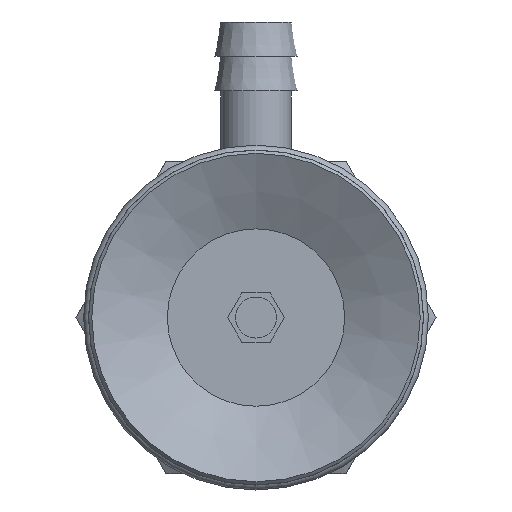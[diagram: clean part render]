
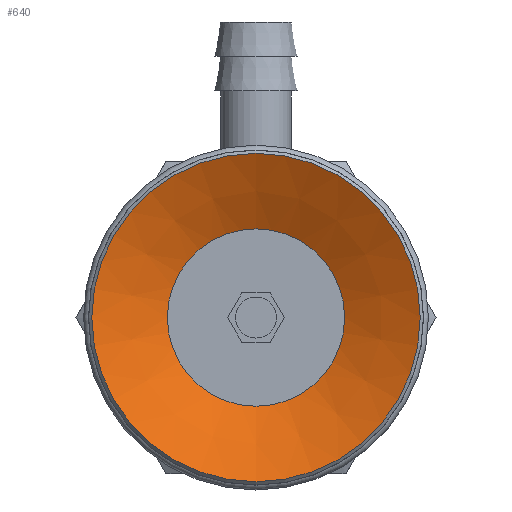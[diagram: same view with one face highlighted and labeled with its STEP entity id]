
A CAD part, front view. The second image highlights one B-rep face of the part: STEP entity #640.
In plain terms, the highlighted conical face has half-angle 63 degrees and reference radius 5.4 mm.
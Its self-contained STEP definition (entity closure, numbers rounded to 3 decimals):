
#640=ADVANCED_FACE('',(#968,#969),#970,.F.);
#968=FACE_BOUND('',#1331,.T.);
#969=FACE_OUTER_BOUND('',#1332,.T.);
#970=CONICAL_SURFACE('',#1333,5.4,1.1);
#1331=EDGE_LOOP('',(#2263));
#1332=EDGE_LOOP('',(#2264));
#1333=AXIS2_PLACEMENT_3D('',#2265,#2266,#2267);
#2263=ORIENTED_EDGE('',*,*,#2634,.F.);
#2264=ORIENTED_EDGE('',*,*,#2639,.T.);
#2265=CARTESIAN_POINT('',(0.0,5.518,0.0));
#2266=DIRECTION('',(-0.0,-1.0,0.));
#2267=DIRECTION('',(0.0,0.,-1.0));
#2634=EDGE_CURVE('',#3081,#3081,#3082,.T.);
#2639=EDGE_CURVE('',#3091,#3091,#3092,.T.);
#3081=VERTEX_POINT('',#4033);
#3082=CIRCLE('',#4034,5.4);
#3091=VERTEX_POINT('',#4043);
#3092=CIRCLE('',#4044,10.0);
#4033=CARTESIAN_POINT('',(0.0,5.518,-5.4));
#4034=AXIS2_PLACEMENT_3D('',#4471,#4472,#4473);
#4043=CARTESIAN_POINT('',(0.0,3.175,-10.0));
#4044=AXIS2_PLACEMENT_3D('',#4486,#4487,#4488);
#4471=CARTESIAN_POINT('',(0.0,5.518,0.0));
#4472=DIRECTION('',(0.0,-1.0,0.));
#4473=DIRECTION('',(0.0,0.,-1.0));
#4486=CARTESIAN_POINT('',(0.0,3.175,0.0));
#4487=DIRECTION('',(0.0,-1.0,0.));
#4488=DIRECTION('',(0.0,0.,-1.0));
